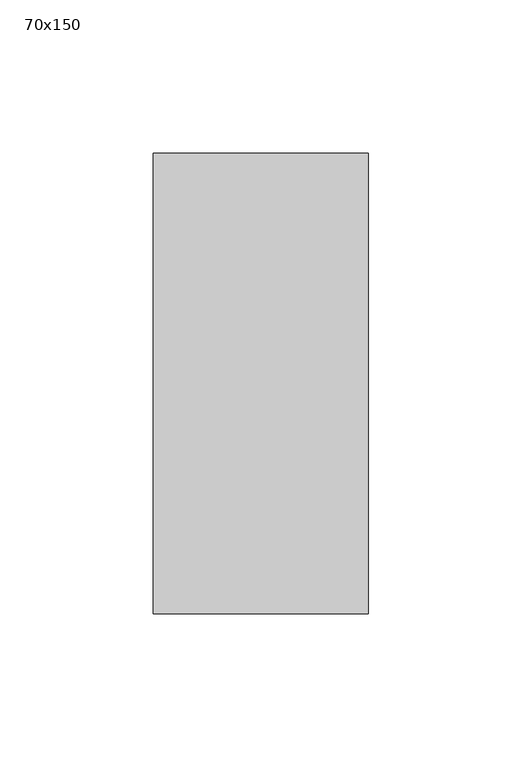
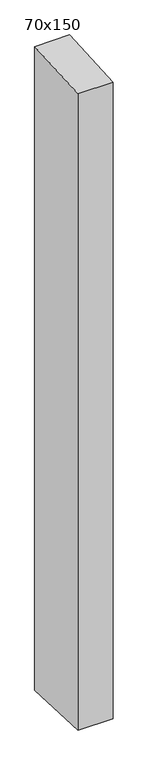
"""IFC4 building model written with IfcOpenShell, lengths in millimetres: member geometry, 長方形のマリオン : 70x150."""

from ifc_helpers import new_model, si_unit, frame, origin, place, context, project, spatial, polyline, outline, extrude, source, transform, mapped, element, save


def member_70x150_bcd02411(model_context):
    return source(origin(), model_context, "Body", "SweptSolid", [
        extrude(outline(polyline([(-75.0, -4.2711403), (75.0, 4.2711403), (75.0, -1354.2423423), (-75.0, -1348.1718398), (-75.0, -4.2711403)])), frame((-70.0, 0.0, 0.0), z_axis=(1.0, 0.0, 0.0), x_axis=(0.0, 1.0, 0.0)), (0.0, 0.0, 1.0), 70.0),
    ])


if __name__ == "__main__":
    model = new_model("IFC4")
    model_context = context("Model", 3, world=origin())
    ifc_project = project(units=[si_unit("LENGTHUNIT", "METRE", prefix="MILLI")], contexts=[model_context])
    site = spatial("IfcSite", under=ifc_project)
    building = spatial("IfcBuilding", under=site)
    placement = place(None, origin())
    member_70x150_shape = member_70x150_bcd02411(model_context)
    element("IfcMember", 1, ObjectType="長方形のマリオン : 70x150", at=placement, inside=building, context=model_context, shape_type="MappedRepresentation", body=[
        mapped(member_70x150_shape, transform((0.0, 0.0, 0.0), x_axis=(1.0, 0.0, 0.0), y_axis=(0.0, 1.0, 0.0), z_axis=(0.0, 0.0, 1.0))),
    ])
    save(model, "model.ifc")
